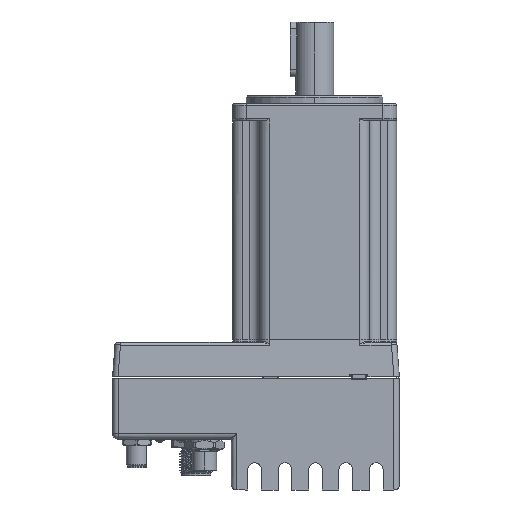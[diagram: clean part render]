
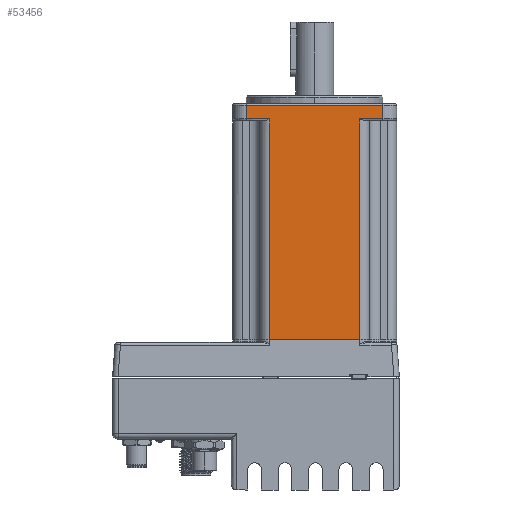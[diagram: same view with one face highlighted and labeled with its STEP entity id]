
A CAD part, left-side view. The second image highlights one B-rep face of the part: STEP entity #53456.
In plain terms, the highlighted planar face has unit normal (-1, 0, 0).
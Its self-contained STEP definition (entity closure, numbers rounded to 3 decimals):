
#2582 = ORIENTED_EDGE ( 'NONE', *, *, #27424, .T. ) ;
#2780 = VECTOR ( 'NONE', #63201, 1000. ) ;
#3377 = ORIENTED_EDGE ( 'NONE', *, *, #16729, .T. ) ;
#3950 = LINE ( 'NONE', #49387, #56853 ) ;
#4162 = PLANE ( 'NONE',  #40891 ) ;
#5982 = DIRECTION ( 'NONE',  ( 1., 0., 0. ) ) ;
#6345 = LINE ( 'NONE', #49605, #51286 ) ;
#6598 = ORIENTED_EDGE ( 'NONE', *, *, #27629, .T. ) ;
#7420 = CARTESIAN_POINT ( 'NONE',  ( -30., -29.978, 45.81 ) ) ;
#9262 = VERTEX_POINT ( 'NONE', #48159 ) ;
#13043 = DIRECTION ( 'NONE',  ( 0., 0., -1. ) ) ;
#13468 = VECTOR ( 'NONE', #60651, 1000. ) ;
#14206 = CARTESIAN_POINT ( 'NONE',  ( -30., 16.522, 45.81 ) ) ;
#15928 = CARTESIAN_POINT ( 'NONE',  ( -30., -16.478, -34.99 ) ) ;
#16041 = VECTOR ( 'NONE', #54677, 1000. ) ;
#16729 = EDGE_CURVE ( 'NONE', #71202, #60973, #33876, .T. ) ;
#18226 = CARTESIAN_POINT ( 'NONE',  ( -30., -24.978, 45.81 ) ) ;
#18326 = CARTESIAN_POINT ( 'NONE',  ( -30., -24.978, 50.81 ) ) ;
#19347 = VECTOR ( 'NONE', #66900, 1000. ) ;
#24005 = LINE ( 'NONE', #7420, #2780 ) ;
#25866 = LINE ( 'NONE', #36608, #16041 ) ;
#26441 = DIRECTION ( 'NONE',  ( 0., 0., 1. ) ) ;
#27389 = LINE ( 'NONE', #72503, #13468 ) ;
#27424 = EDGE_CURVE ( 'NONE', #9262, #52749, #29665, .T. ) ;
#27629 = EDGE_CURVE ( 'NONE', #49568, #9262, #27389, .T. ) ;
#28458 = VERTEX_POINT ( 'NONE', #57114 ) ;
#28680 = ORIENTED_EDGE ( 'NONE', *, *, #43314, .T. ) ;
#28850 = CARTESIAN_POINT ( 'NONE',  ( -30., 30.022, 44.31 ) ) ;
#29665 = LINE ( 'NONE', #68125, #55906 ) ;
#30516 = ORIENTED_EDGE ( 'NONE', *, *, #52716, .T. ) ;
#32176 = LINE ( 'NONE', #55072, #19347 ) ;
#33876 = LINE ( 'NONE', #67519, #49193 ) ;
#34323 = EDGE_CURVE ( 'NONE', #59030, #28458, #32176, .T. ) ;
#36608 = CARTESIAN_POINT ( 'NONE',  ( -30., 16.522, -34.99 ) ) ;
#38536 = FACE_OUTER_BOUND ( 'NONE', #62072, .T. ) ;
#38888 = CARTESIAN_POINT ( 'NONE',  ( -30., 25.022, 45.81 ) ) ;
#40891 = AXIS2_PLACEMENT_3D ( 'NONE', #28850, #5982, #45511 ) ;
#43314 = EDGE_CURVE ( 'NONE', #60973, #59030, #25866, .T. ) ;
#44940 = ORIENTED_EDGE ( 'NONE', *, *, #71005, .T. ) ;
#45511 = DIRECTION ( 'NONE',  ( 0., 0., 1. ) ) ;
#48159 = CARTESIAN_POINT ( 'NONE',  ( -30., 25.022, 50.81 ) ) ;
#48596 = VERTEX_POINT ( 'NONE', #18226 ) ;
#49193 = VECTOR ( 'NONE', #72346, 1000. ) ;
#49387 = CARTESIAN_POINT ( 'NONE',  ( -30., -24.978, 44.31 ) ) ;
#49568 = VERTEX_POINT ( 'NONE', #18326 ) ;
#49605 = CARTESIAN_POINT ( 'NONE',  ( -30., -29.978, 45.81 ) ) ;
#50663 = DIRECTION ( 'NONE',  ( 0., -1., 0. ) ) ;
#51286 = VECTOR ( 'NONE', #50663, 1000. ) ;
#51977 = EDGE_CURVE ( 'NONE', #52749, #71202, #24005, .T. ) ;
#52716 = EDGE_CURVE ( 'NONE', #28458, #48596, #6345, .T. ) ;
#52749 = VERTEX_POINT ( 'NONE', #38888 ) ;
#53456 = ADVANCED_FACE ( 'NONE', ( #38536 ), #4162, .F. ) ;
#53512 = CARTESIAN_POINT ( 'NONE',  ( -30., 16.522, -34.99 ) ) ;
#53555 = ORIENTED_EDGE ( 'NONE', *, *, #51977, .T. ) ;
#54677 = DIRECTION ( 'NONE',  ( 0., -1., 0. ) ) ;
#55072 = CARTESIAN_POINT ( 'NONE',  ( -30., -16.478, 44.31 ) ) ;
#55906 = VECTOR ( 'NONE', #13043, 1000. ) ;
#56853 = VECTOR ( 'NONE', #26441, 1000. ) ;
#57114 = CARTESIAN_POINT ( 'NONE',  ( -30., -16.478, 45.81 ) ) ;
#59030 = VERTEX_POINT ( 'NONE', #15928 ) ;
#60651 = DIRECTION ( 'NONE',  ( 0., 1., 0. ) ) ;
#60973 = VERTEX_POINT ( 'NONE', #53512 ) ;
#62072 = EDGE_LOOP ( 'NONE', ( #62258, #30516, #44940, #6598, #2582, #53555, #3377, #28680 ) ) ;
#62258 = ORIENTED_EDGE ( 'NONE', *, *, #34323, .T. ) ;
#63201 = DIRECTION ( 'NONE',  ( 0., -1., 0. ) ) ;
#66900 = DIRECTION ( 'NONE',  ( 0., 0., 1. ) ) ;
#67519 = CARTESIAN_POINT ( 'NONE',  ( -30., 16.522, 44.31 ) ) ;
#68125 = CARTESIAN_POINT ( 'NONE',  ( -30., 25.022, 44.31 ) ) ;
#71005 = EDGE_CURVE ( 'NONE', #48596, #49568, #3950, .T. ) ;
#71202 = VERTEX_POINT ( 'NONE', #14206 ) ;
#72346 = DIRECTION ( 'NONE',  ( 0., 0., -1. ) ) ;
#72503 = CARTESIAN_POINT ( 'NONE',  ( -30., 25.022, 50.81 ) ) ;
